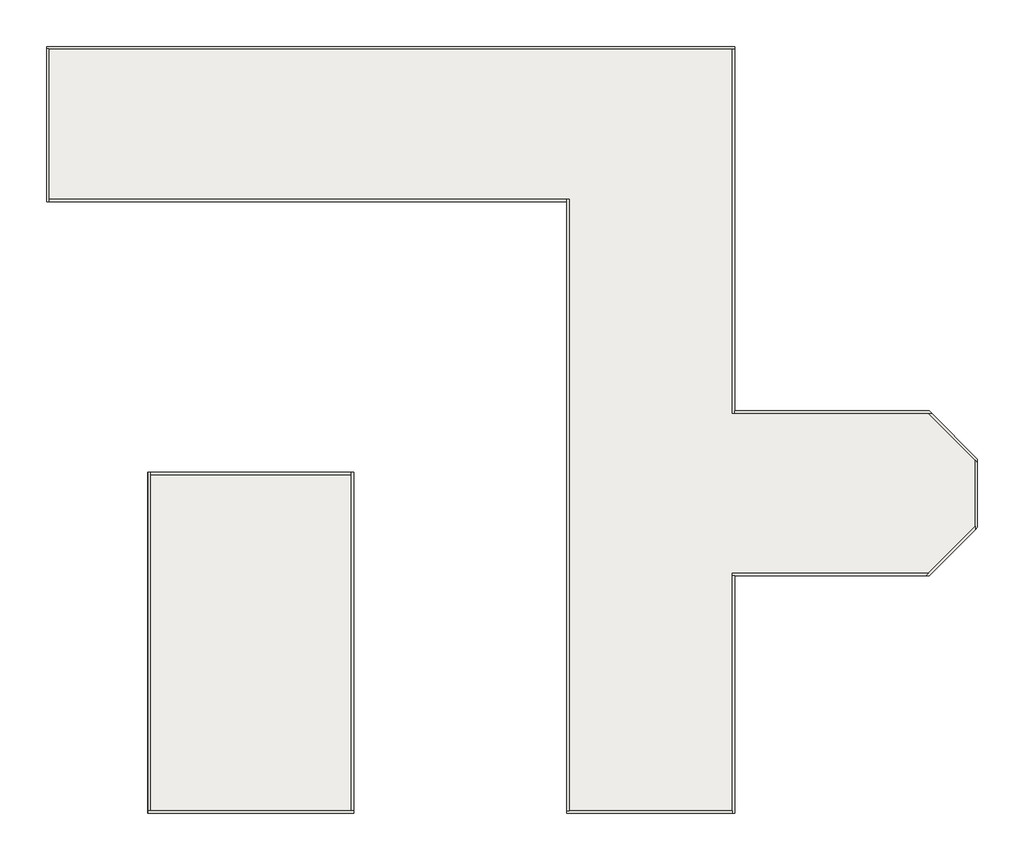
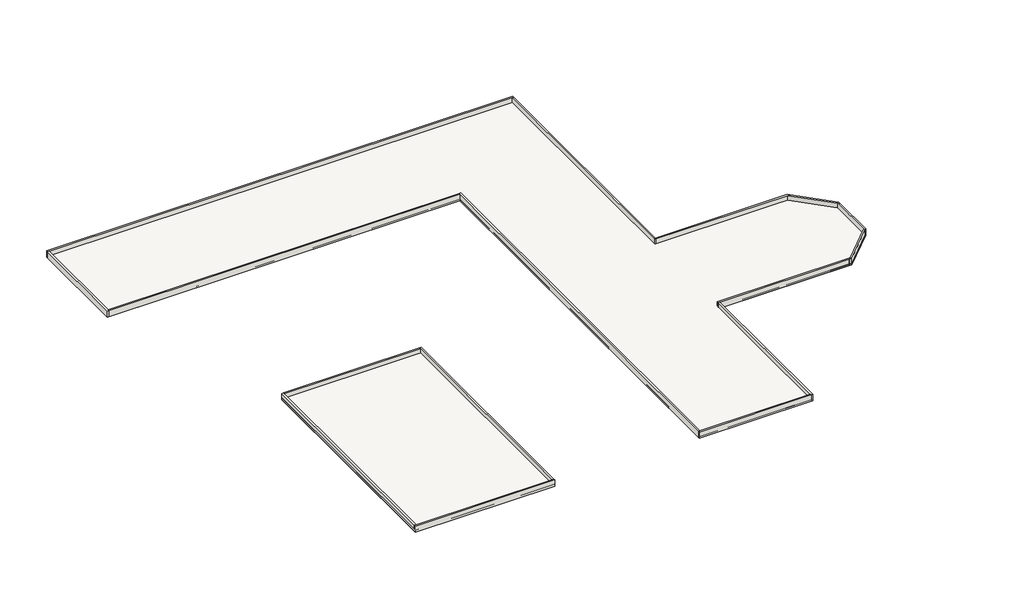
# One storey: 16 walls, 2 roofs.
"""IFC4 building model written with IfcOpenShell, lengths in millimetres."""

from ifc_helpers import new_model, si_unit, frame, origin, place, context, project, spatial, polyline, outline, extrude, faceted_brep, element, save

model = new_model("IFC4")

# Units and contexts
model_context = context("Model", 3, world=origin())
ifc_project = project(units=[si_unit("LENGTHUNIT", "METRE", prefix="MILLI")], contexts=[model_context])

# Site, building, storey
site = spatial("IfcSite", under=ifc_project)
building = spatial("IfcBuilding", under=site)
storey = spatial("IfcBuildingStorey", under=building, Name="三层", Elevation=7200.0)

# Roofs
placement = place(None, origin())
element("IfcRoof", 1, ObjectType="屋顶", at=placement, inside=storey, context=model_context, shape_type="SweptSolid", body=[
    extrude(outline(polyline([(-35990.2831392, 9626.2161615), (-35990.2831392, 19296.2161615), (6849.7168608, 19296.2161615), (6849.7168608, -3383.7838385), (18959.9506257, -3383.7838385), (21964.7168608, -6388.5500735), (21964.7168608, -10639.0176034), (18959.9506257, -13643.7838385), (6849.7168608, -13643.7838385), (6849.7168608, -28433.7838385), (-3604.2831392, -28433.7838385), (-3604.2831392, 9626.2161615), (-35990.2831392, 9626.2161615)])), frame((0.0, 0.0, 7050.0), z_axis=(0.0, 0.0, 1.0), x_axis=(1.0, 0.0, 0.0)), (0.0, 0.0, 1.0), 150.0),
])
element("IfcRoof", 2, ObjectType="屋顶", at=placement, inside=storey, context=model_context, shape_type="SweptSolid", body=[
    extrude(outline(polyline([(-29687.4836535, -7203.7838385), (-16887.4836535, -7203.7838385), (-16887.4836535, -28433.7838385), (-29687.4836535, -28433.7838385), (-29687.4836535, -7203.7838385)])), frame((0.0, 0.0, 7100.0), z_axis=(0.0, 0.0, 1.0), x_axis=(1.0, 0.0, 0.0)), (0.0, 0.0, 1.0), 150.0),
])

# Walls
element("IfcWall", 3, ObjectType="栏板（女儿墙）", at=placement, inside=storey, context=model_context, shape_type="Brep", body=[
    faceted_brep([(-35990.2831392, 19146.2161615, 7050.0), (-35840.2831392, 19146.2161615, 7050.0), (6699.7168608, 19146.2161615, 7050.0), (6849.7168608, 19146.2161615, 7050.0), (6849.7168608, 19146.2161615, 7650.0), (6699.7168608, 19146.2161615, 7650.0), (-35840.2831392, 19146.2161615, 7650.0), (-35990.2831392, 19146.2161615, 7650.0), (-35990.2831392, 19296.2161615, 7050.0), (-35990.2831392, 19296.2161615, 7650.0), (6849.7168608, 19296.2161615, 7650.0), (6849.7168608, 19296.2161615, 7050.0)], [[[0, 1, 2, 3, 4, 5, 6, 7]], [[8, 9, 10, 11]], [[3, 2, 1, 0, 8, 11]], [[7, 6, 5, 4, 10, 9]], [[0, 7, 9, 8]], [[4, 3, 11, 10]]]),
])
element("IfcWall", 4, ObjectType="栏板（女儿墙）", at=placement, inside=storey, context=model_context, shape_type="Brep", body=[
    faceted_brep([(6699.7168608, 19146.2161615, 7050.0), (6699.7168608, -3533.7838385, 7050.0), (6699.7168608, -3533.7838385, 7650.0), (6699.7168608, 19146.2161615, 7650.0), (6849.7168608, 19146.2161615, 7050.0), (6849.7168608, 19146.2161615, 7650.0), (6849.7168608, -3383.7838385, 7650.0), (6849.7168608, -3533.7838385, 7650.0), (6849.7168608, -3533.7838385, 7050.0), (6849.7168608, -3383.7838385, 7050.0)], [[[0, 1, 2, 3]], [[4, 5, 6, 7, 8, 9]], [[1, 0, 4, 9, 8]], [[3, 2, 7, 6, 5]], [[0, 3, 5, 4]], [[2, 1, 8, 7]]]),
])
element("IfcWall", 5, ObjectType="栏板（女儿墙）", at=placement, inside=storey, context=model_context, shape_type="Brep", body=[
    faceted_brep([(6849.7168608, -3533.7838385, 7050.0), (18897.8185914, -3533.7838385, 7050.0), (19109.9506257, -3533.7838385, 7050.0), (19109.9506257, -3533.7838385, 7650.0), (18897.8185914, -3533.7838385, 7650.0), (6849.7168608, -3533.7838385, 7650.0), (6849.7168608, -3383.7838385, 7050.0), (6849.7168608, -3383.7838385, 7650.0), (18959.9506257, -3383.7838385, 7650.0), (18959.9506257, -3383.7838385, 7050.0)], [[[0, 1, 2, 3, 4, 5]], [[6, 7, 8, 9]], [[2, 1, 0, 6, 9]], [[5, 4, 3, 8, 7]], [[3, 2, 9, 8]], [[0, 5, 7, 6]]]),
])
element("IfcWall", 6, ObjectType="栏板（女儿墙）", at=placement, inside=storey, context=model_context, shape_type="Brep", body=[
    faceted_brep([(18897.8185914, -3533.7838385, 7050.0), (21814.7168608, -6450.6821079, 7050.0), (21964.7168608, -6600.6821079, 7050.0), (21964.7168608, -6600.6821079, 7650.0), (21814.7168608, -6450.6821079, 7650.0), (18897.8185914, -3533.7838385, 7650.0), (19109.9506257, -3533.7838385, 7050.0), (19109.9506257, -3533.7838385, 7650.0), (21964.7168608, -6388.5500735, 7650.0), (21964.7168608, -6388.5500735, 7050.0)], [[[0, 1, 2, 3, 4, 5]], [[6, 7, 8, 9]], [[2, 1, 0, 6, 9]], [[5, 4, 3, 8, 7]], [[0, 5, 7, 6]], [[3, 2, 9, 8]]]),
])
element("IfcWall", 7, ObjectType="栏板（女儿墙）", at=placement, inside=storey, context=model_context, shape_type="Brep", body=[
    faceted_brep([(21814.7168608, -6450.6821079, 7050.0), (21814.7168608, -10576.885569, 7050.0), (21814.7168608, -10789.0176034, 7050.0), (21814.7168608, -10789.0176034, 7650.0), (21814.7168608, -10576.885569, 7650.0), (21814.7168608, -6450.6821079, 7650.0), (21964.7168608, -6600.6821079, 7050.0), (21964.7168608, -6600.6821079, 7650.0), (21964.7168608, -10639.0176034, 7650.0), (21964.7168608, -10639.0176034, 7050.0)], [[[0, 1, 2, 3, 4, 5]], [[6, 7, 8, 9]], [[2, 1, 0, 6, 9]], [[5, 4, 3, 8, 7]], [[0, 5, 7, 6]], [[3, 2, 9, 8]]]),
])
element("IfcWall", 8, ObjectType="栏板（女儿墙）", at=placement, inside=storey, context=model_context, shape_type="Brep", body=[
    faceted_brep([(21814.7168608, -10576.885569, 7050.0), (18897.8185914, -13493.7838385, 7050.0), (18747.8185914, -13643.7838385, 7050.0), (18747.8185914, -13643.7838385, 7650.0), (18897.8185914, -13493.7838385, 7650.0), (21814.7168608, -10576.885569, 7650.0), (21814.7168608, -10789.0176034, 7050.0), (21814.7168608, -10789.0176034, 7650.0), (18959.9506257, -13643.7838385, 7650.0), (18959.9506257, -13643.7838385, 7050.0)], [[[0, 1, 2, 3, 4, 5]], [[6, 7, 8, 9]], [[2, 1, 0, 6, 9]], [[5, 4, 3, 8, 7]], [[0, 5, 7, 6]], [[3, 2, 9, 8]]]),
])
element("IfcWall", 9, ObjectType="栏板（女儿墙）", at=placement, inside=storey, context=model_context, shape_type="Brep", body=[
    faceted_brep([(18897.8185914, -13493.7838385, 7050.0), (6699.7168608, -13493.7838385, 7050.0), (6699.7168608, -13493.7838385, 7650.0), (18897.8185914, -13493.7838385, 7650.0), (18747.8185914, -13643.7838385, 7050.0), (18747.8185914, -13643.7838385, 7650.0), (6849.7168608, -13643.7838385, 7650.0), (6699.7168608, -13643.7838385, 7650.0), (6699.7168608, -13643.7838385, 7050.0), (6849.7168608, -13643.7838385, 7050.0)], [[[0, 1, 2, 3]], [[4, 5, 6, 7, 8, 9]], [[1, 0, 4, 9, 8]], [[3, 2, 7, 6, 5]], [[0, 3, 5, 4]], [[2, 1, 8, 7]]]),
])
element("IfcWall", 10, ObjectType="栏板（女儿墙）", at=placement, inside=storey, context=model_context, shape_type="Brep", body=[
    faceted_brep([(6699.7168608, -13643.7838385, 7050.0), (6699.7168608, -28283.7838385, 7050.0), (6699.7168608, -28433.7838385, 7050.0), (6699.7168608, -28433.7838385, 7650.0), (6699.7168608, -28283.7838385, 7650.0), (6699.7168608, -13643.7838385, 7650.0), (6849.7168608, -13643.7838385, 7050.0), (6849.7168608, -13643.7838385, 7650.0), (6849.7168608, -28433.7838385, 7650.0), (6849.7168608, -28433.7838385, 7050.0)], [[[0, 1, 2, 3, 4, 5]], [[6, 7, 8, 9]], [[2, 1, 0, 6, 9]], [[5, 4, 3, 8, 7]], [[0, 5, 7, 6]], [[3, 2, 9, 8]]]),
])
element("IfcWall", 11, ObjectType="栏板（女儿墙）", at=placement, inside=storey, context=model_context, shape_type="Brep", body=[
    faceted_brep([(6699.7168608, -28283.7838385, 7050.0), (-3454.2831392, -28283.7838385, 7050.0), (-3604.2831392, -28283.7838385, 7050.0), (-3604.2831392, -28283.7838385, 7650.0), (-3454.2831392, -28283.7838385, 7650.0), (6699.7168608, -28283.7838385, 7650.0), (6699.7168608, -28433.7838385, 7050.0), (6699.7168608, -28433.7838385, 7650.0), (-3604.2831392, -28433.7838385, 7650.0), (-3604.2831392, -28433.7838385, 7050.0)], [[[0, 1, 2, 3, 4, 5]], [[6, 7, 8, 9]], [[2, 1, 0, 6, 9]], [[5, 4, 3, 8, 7]], [[0, 5, 7, 6]], [[3, 2, 9, 8]]]),
])
element("IfcWall", 12, ObjectType="栏板（女儿墙）", at=placement, inside=storey, context=model_context, shape_type="Brep", body=[
    faceted_brep([(-3454.2831392, -28283.7838385, 7050.0), (-3454.2831392, 9776.2161615, 7050.0), (-3454.2831392, 9776.2161615, 7650.0), (-3454.2831392, -28283.7838385, 7650.0), (-3604.2831392, -28283.7838385, 7050.0), (-3604.2831392, -28283.7838385, 7650.0), (-3604.2831392, 9626.2161615, 7650.0), (-3604.2831392, 9776.2161615, 7650.0), (-3604.2831392, 9776.2161615, 7050.0), (-3604.2831392, 9626.2161615, 7050.0)], [[[0, 1, 2, 3]], [[4, 5, 6, 7, 8, 9]], [[1, 0, 4, 9, 8]], [[3, 2, 7, 6, 5]], [[0, 3, 5, 4]], [[2, 1, 8, 7]]]),
])
element("IfcWall", 13, ObjectType="栏板（女儿墙）", at=placement, inside=storey, context=model_context, shape_type="Brep", body=[
    faceted_brep([(-16870.2831392, -28283.7838385, 7050.0), (-17020.2831392, -28283.7838385, 7050.0), (-29520.2831392, -28283.7838385, 7050.0), (-29670.2831392, -28283.7838385, 7050.0), (-29670.2831392, -28283.7838385, 7650.0), (-29520.2831392, -28283.7838385, 7650.0), (-17020.2831392, -28283.7838385, 7650.0), (-16870.2831392, -28283.7838385, 7650.0), (-16870.2831392, -28433.7838385, 7050.0), (-16870.2831392, -28433.7838385, 7650.0), (-29670.2831392, -28433.7838385, 7650.0), (-29670.2831392, -28433.7838385, 7050.0)], [[[0, 1, 2, 3, 4, 5, 6, 7]], [[8, 9, 10, 11]], [[3, 2, 1, 0, 8, 11]], [[7, 6, 5, 4, 10, 9]], [[4, 3, 11, 10]], [[0, 7, 9, 8]]]),
])
element("IfcWall", 14, ObjectType="栏板（女儿墙）", at=placement, inside=storey, context=model_context, shape_type="Brep", body=[
    faceted_brep([(-29520.2831392, -28283.7838385, 7050.0), (-29520.2831392, -7203.7838385, 7050.0), (-29520.2831392, -7203.7838385, 7200.0), (-29520.2831392, -7203.7838385, 7650.0), (-29520.2831392, -7353.7838385, 7650.0), (-29520.2831392, -28283.7838385, 7650.0), (-29670.2831392, -28283.7838385, 7050.0), (-29670.2831392, -28283.7838385, 7650.0), (-29670.2831392, -7203.7838385, 7650.0), (-29670.2831392, -7203.7838385, 7050.0)], [[[0, 1, 2, 3, 4, 5]], [[6, 7, 8, 9]], [[1, 0, 6, 9]], [[5, 4, 3, 8, 7]], [[0, 5, 7, 6]], [[3, 2, 1, 9, 8]]]),
])
element("IfcWall", 15, ObjectType="栏板（女儿墙）", at=placement, inside=storey, context=model_context, shape_type="Brep", body=[
    faceted_brep([(-16870.2831392, -28283.7838385, 7050.0), (-16870.2831392, -7203.7838385, 7050.0), (-16870.2831392, -7203.7838385, 7650.0), (-16870.2831392, -28283.7838385, 7650.0), (-17020.2831392, -28283.7838385, 7050.0), (-17020.2831392, -28283.7838385, 7650.0), (-17020.2831392, -7353.7838385, 7650.0), (-17020.2831392, -7203.7838385, 7650.0), (-17020.2831392, -7203.7838385, 7200.0), (-17020.2831392, -7203.7838385, 7050.0)], [[[0, 1, 2, 3]], [[4, 5, 6, 7, 8, 9]], [[1, 0, 4, 9]], [[3, 2, 7, 6, 5]], [[0, 3, 5, 4]], [[2, 1, 9, 8, 7]]]),
])
element("IfcWall", 16, ObjectType="栏板（女儿墙）", at=placement, inside=storey, context=model_context, shape_type="Brep", body=[
    faceted_brep([(-35990.2831392, 19146.2161615, 7050.0), (-35990.2831392, 9626.2161615, 7050.0), (-35990.2831392, 9626.2161615, 7650.0), (-35990.2831392, 19146.2161615, 7650.0), (-35840.2831392, 19146.2161615, 7050.0), (-35840.2831392, 19146.2161615, 7650.0), (-35840.2831392, 9776.2161615, 7650.0), (-35840.2831392, 9626.2161615, 7650.0), (-35840.2831392, 9626.2161615, 7050.0), (-35840.2831392, 9776.2161615, 7050.0)], [[[0, 1, 2, 3]], [[4, 5, 6, 7, 8, 9]], [[1, 0, 4, 9, 8]], [[3, 2, 7, 6, 5]], [[0, 3, 5, 4]], [[2, 1, 8, 7]]]),
])
element("IfcWall", 17, ObjectType="栏板（女儿墙）", at=placement, inside=storey, context=model_context, shape_type="SweptSolid", body=[
    extrude(outline(polyline([(-3604.2831392, 9626.2161615), (-35840.2831392, 9626.2161615), (-35840.2831392, 9776.2161615), (-3604.2831392, 9776.2161615), (-3604.2831392, 9626.2161615)])), frame((0.0, 0.0, 7050.0), z_axis=(0.0, 0.0, 1.0), x_axis=(1.0, 0.0, 0.0)), (0.0, 0.0, 1.0), 600.0),
])
element("IfcWall", 18, ObjectType="栏板（女儿墙）", at=placement, inside=storey, context=model_context, shape_type="SweptSolid", body=[
    extrude(outline(polyline([(-17020.2831392, -7353.7838385), (-29520.2831392, -7353.7838385), (-29520.2831392, -7203.7838385), (-17020.2831392, -7203.7838385), (-17020.2831392, -7353.7838385)])), frame((0.0, 0.0, 7200.0), z_axis=(0.0, 0.0, 1.0), x_axis=(1.0, 0.0, 0.0)), (0.0, 0.0, 1.0), 450.0),
])

save(model, "model.ifc")
